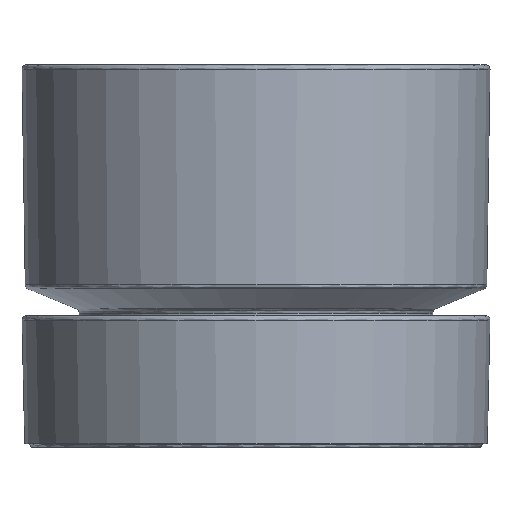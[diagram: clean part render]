
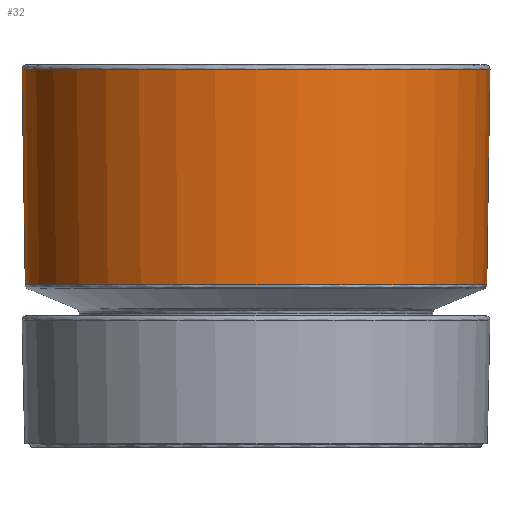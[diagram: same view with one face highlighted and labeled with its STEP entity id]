
A CAD part, front view. The second image highlights one B-rep face of the part: STEP entity #32.
In plain terms, the highlighted free-form (B-spline) face has degree [2, 1] with [5, 2] control points.
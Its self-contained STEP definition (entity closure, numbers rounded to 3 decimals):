
#32=ADVANCED_FACE('',(#96),#882,.T.);
#96=FACE_OUTER_BOUND('',#161,.T.);
#161=EDGE_LOOP('',(#260,#261,#262,#263));
#260=ORIENTED_EDGE('',*,*,#511,.T.);
#261=ORIENTED_EDGE('',*,*,#512,.T.);
#262=ORIENTED_EDGE('',*,*,#487,.F.);
#263=ORIENTED_EDGE('',*,*,#513,.F.);
#487=EDGE_CURVE('',#806,#805,#590,.T.);
#511=EDGE_CURVE('',#812,#813,#595,.T.);
#512=EDGE_CURVE('',#813,#805,#669,.T.);
#513=EDGE_CURVE('',#812,#806,#670,.T.);
#590=B_SPLINE_CURVE_WITH_KNOTS('',1,(#1648,#1649),.UNSPECIFIED.,.F.,.F.,
(2,2),(315.068,473.778),.UNSPECIFIED.);
#595=B_SPLINE_CURVE_WITH_KNOTS('',1,(#1714,#1715),.UNSPECIFIED.,.F.,.F.,
(2,2),(315.068,473.778),.UNSPECIFIED.);
#669=TRIMMED_CURVE($,#743,(#1717),(#1718),.T.,.CARTESIAN.);
#670=TRIMMED_CURVE($,#744,(#1720),(#1721),.T.,.CARTESIAN.);
#743=CIRCLE('',#1049,209.939);
#744=CIRCLE('',#1050,207.039);
#805=VERTEX_POINT('',#1573);
#806=VERTEX_POINT('',#1574);
#812=VERTEX_POINT('',#1580);
#813=VERTEX_POINT('',#1581);
#882=(
BOUNDED_SURFACE()
B_SPLINE_SURFACE(2,1,((#1339,#1340),(#1341,#1342),(#1343,#1344),(#1345,
#1346),(#1347,#1348)),.UNSPECIFIED.,.F.,.F.,.F.)
B_SPLINE_SURFACE_WITH_KNOTS((3,2,3),(2,2),(0.,329.867,659.734),
(312.907,477.111),.UNSPECIFIED.)
GEOMETRIC_REPRESENTATION_ITEM()
RATIONAL_B_SPLINE_SURFACE(((1.,1.),(0.707,0.707),
(1.,1.),(0.707,0.707),(1.,1.)))
REPRESENTATION_ITEM('')
SURFACE()
);
#1049=AXIS2_PLACEMENT_3D($,#1716,#1174,#1175);
#1050=AXIS2_PLACEMENT_3D($,#1719,#1176,#1177);
#1174=DIRECTION('',(0.,0.,-1.));
#1175=DIRECTION('',(1.,0.,0.));
#1176=DIRECTION('',(0.,0.,-1.));
#1177=DIRECTION('',(1.,0.,0.));
#1339=CARTESIAN_POINT('',(-207.,0.,25.));
#1340=CARTESIAN_POINT('',(-210.,0.,225.));
#1341=CARTESIAN_POINT('',(-207.,-207.,25.));
#1342=CARTESIAN_POINT('',(-210.,-210.,225.));
#1343=CARTESIAN_POINT('',(0.,-207.,25.));
#1344=CARTESIAN_POINT('',(0.,-210.,225.));
#1345=CARTESIAN_POINT('',(207.,-207.,25.));
#1346=CARTESIAN_POINT('',(210.,-210.,225.));
#1347=CARTESIAN_POINT('',(207.,0.,25.));
#1348=CARTESIAN_POINT('',(210.,0.,225.));
#1573=CARTESIAN_POINT('',(-209.939,0.,220.94));
#1574=CARTESIAN_POINT('',(-207.039,0.,27.632));
#1580=CARTESIAN_POINT('',(207.039,0.,27.632));
#1581=CARTESIAN_POINT('',(209.939,0.,220.94));
#1648=CARTESIAN_POINT('',(-207.039,0.,27.632));
#1649=CARTESIAN_POINT('',(-209.939,0.,220.94));
#1714=CARTESIAN_POINT('',(207.039,0.,27.632));
#1715=CARTESIAN_POINT('',(209.939,0.,220.94));
#1716=CARTESIAN_POINT('',(0.,0.,220.94));
#1717=CARTESIAN_POINT('',(209.939,0.,220.94));
#1718=CARTESIAN_POINT('',(-209.939,0.,220.94));
#1719=CARTESIAN_POINT('',(0.,0.,27.632));
#1720=CARTESIAN_POINT('',(207.039,0.,27.632));
#1721=CARTESIAN_POINT('',(-207.039,0.,27.632));
